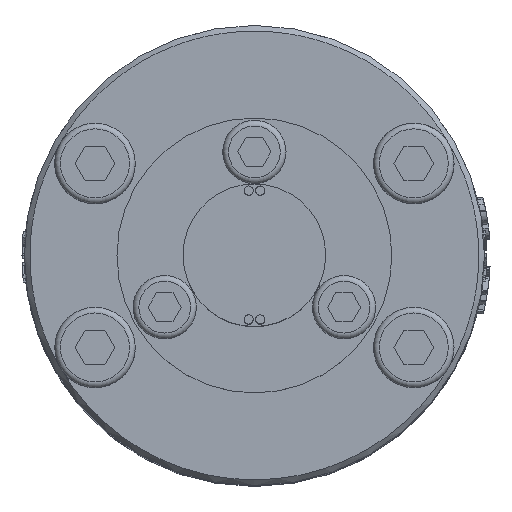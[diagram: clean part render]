
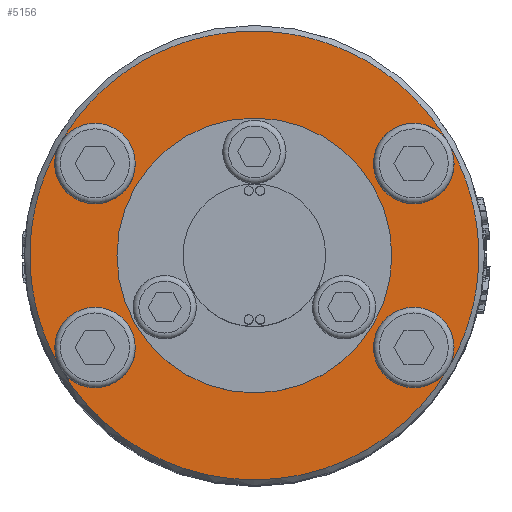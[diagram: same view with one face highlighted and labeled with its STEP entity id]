
A CAD part, top view. The second image highlights one B-rep face of the part: STEP entity #5156.
In plain terms, the highlighted planar face has unit normal (0, 0, 1).
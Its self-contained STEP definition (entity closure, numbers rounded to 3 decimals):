
#5156=ADVANCED_FACE('',(#6622,#6623),#6136,.T.);
#6136=PLANE('',#17731);
#6622=FACE_BOUND('',#6974,.T.);
#6623=FACE_BOUND('',#6975,.T.);
#6974=EDGE_LOOP('',(#8274,#8275,#8276,#8277,#8278,#8279,#8280,#8281));
#6975=EDGE_LOOP('',(#8282));
#8274=ORIENTED_EDGE('',*,*,#14997,.T.);
#8275=ORIENTED_EDGE('',*,*,#14917,.F.);
#8276=ORIENTED_EDGE('',*,*,#14996,.T.);
#8277=ORIENTED_EDGE('',*,*,#14980,.F.);
#8278=ORIENTED_EDGE('',*,*,#14995,.T.);
#8279=ORIENTED_EDGE('',*,*,#14959,.F.);
#8280=ORIENTED_EDGE('',*,*,#14998,.T.);
#8281=ORIENTED_EDGE('',*,*,#14938,.F.);
#8282=ORIENTED_EDGE('',*,*,#14904,.F.);
#13169=VERTEX_POINT('',#21223);
#13182=VERTEX_POINT('',#21259);
#13197=VERTEX_POINT('',#21305);
#13212=VERTEX_POINT('',#21351);
#13227=VERTEX_POINT('',#21397);
#14904=EDGE_CURVE('',#13169,#13169,#17446,.T.);
#14917=EDGE_CURVE('',#13182,#13182,#17453,.T.);
#14938=EDGE_CURVE('',#13197,#13197,#17456,.T.);
#14959=EDGE_CURVE('',#13212,#13212,#17459,.T.);
#14980=EDGE_CURVE('',#13227,#13227,#17462,.T.);
#14995=EDGE_CURVE('',#13227,#13212,#17465,.T.);
#14996=EDGE_CURVE('',#13182,#13227,#17466,.T.);
#14997=EDGE_CURVE('',#13197,#13182,#17467,.T.);
#14998=EDGE_CURVE('',#13212,#13197,#17468,.T.);
#17446=CIRCLE('',#17655,11.95);
#17453=CIRCLE('',#17672,3.5);
#17456=CIRCLE('',#17685,3.5);
#17459=CIRCLE('',#17698,3.5);
#17462=CIRCLE('',#17711,3.5);
#17465=CIRCLE('',#17724,19.5);
#17466=CIRCLE('',#17725,19.5);
#17467=CIRCLE('',#17726,19.5);
#17468=CIRCLE('',#17727,19.5);
#17655=AXIS2_PLACEMENT_3D('',#21222,#18547,#18548);
#17672=AXIS2_PLACEMENT_3D('',#21258,#18587,#18588);
#17685=AXIS2_PLACEMENT_3D('',#21304,#18631,#18632);
#17698=AXIS2_PLACEMENT_3D('',#21350,#18675,#18676);
#17711=AXIS2_PLACEMENT_3D('',#21396,#18719,#18720);
#17724=AXIS2_PLACEMENT_3D('',#21430,#18757,#18758);
#17725=AXIS2_PLACEMENT_3D('',#21431,#18759,#18760);
#17726=AXIS2_PLACEMENT_3D('',#21432,#18761,#18762);
#17727=AXIS2_PLACEMENT_3D('',#21433,#18763,#18764);
#17731=AXIS2_PLACEMENT_3D('',#21438,#18771,#18772);
#18547=DIRECTION('',(0.,0.,1.));
#18548=DIRECTION('',(0.,1.,0.));
#18587=DIRECTION('',(0.,0.,1.));
#18588=DIRECTION('',(1.,0.,0.));
#18631=DIRECTION('',(0.,0.,1.));
#18632=DIRECTION('',(1.,0.,0.));
#18675=DIRECTION('',(0.,0.,1.));
#18676=DIRECTION('',(1.,0.,0.));
#18719=DIRECTION('',(0.,0.,1.));
#18720=DIRECTION('',(1.,0.,0.));
#18757=DIRECTION('',(0.,0.,1.));
#18758=DIRECTION('',(1.,0.,0.));
#18759=DIRECTION('',(0.,0.,1.));
#18760=DIRECTION('',(1.,0.,0.));
#18761=DIRECTION('',(0.,0.,1.));
#18762=DIRECTION('',(1.,0.,0.));
#18763=DIRECTION('',(0.,0.,1.));
#18764=DIRECTION('',(1.,0.,0.));
#18771=DIRECTION('',(0.,0.,1.));
#18772=DIRECTION('',(1.,0.,0.));
#21222=CARTESIAN_POINT('',(0.,0.,63.));
#21223=CARTESIAN_POINT('',(0.,11.95,63.));
#21258=CARTESIAN_POINT('',(13.856,8.,63.));
#21259=CARTESIAN_POINT('',(16.887,9.75,63.));
#21304=CARTESIAN_POINT('',(13.856,-8.,63.));
#21305=CARTESIAN_POINT('',(16.887,-9.75,63.));
#21350=CARTESIAN_POINT('',(-13.856,-8.,63.));
#21351=CARTESIAN_POINT('',(-16.887,-9.75,63.));
#21396=CARTESIAN_POINT('',(-13.856,8.,63.));
#21397=CARTESIAN_POINT('',(-16.887,9.75,63.));
#21430=CARTESIAN_POINT('',(0.,0.,63.));
#21431=CARTESIAN_POINT('',(0.,0.,63.));
#21432=CARTESIAN_POINT('',(0.,0.,63.));
#21433=CARTESIAN_POINT('',(0.,0.,63.));
#21438=CARTESIAN_POINT('',(0.,0.,63.));
